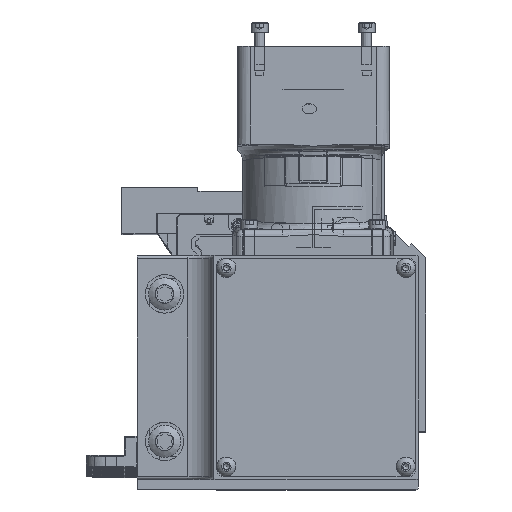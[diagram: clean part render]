
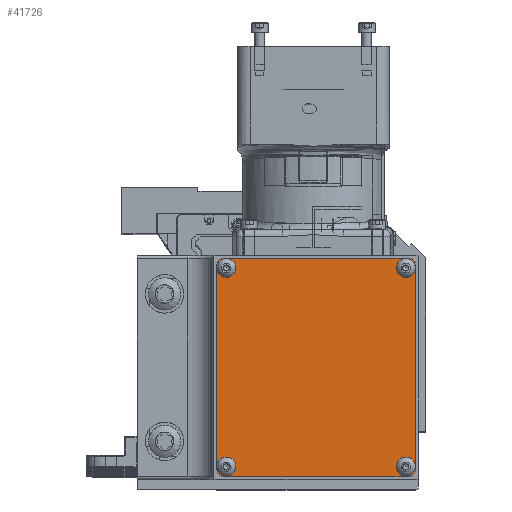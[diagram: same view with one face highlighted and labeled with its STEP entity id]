
A CAD part, top view. The second image highlights one B-rep face of the part: STEP entity #41726.
In plain terms, the highlighted planar face has unit normal (0, 0, 1).
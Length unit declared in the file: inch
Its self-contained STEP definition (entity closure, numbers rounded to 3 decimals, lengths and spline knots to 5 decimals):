
#2211 = CARTESIAN_POINT ( 'NONE',  ( -1.8825, -2., 1.8475 ) ) ;
#2311 = EDGE_LOOP ( 'NONE', ( #22959 ) ) ;
#2469 = CIRCLE ( 'NONE', #39534, 0.125 ) ;
#2878 = CARTESIAN_POINT ( 'NONE',  ( -1.8825, 2.125, 1.8475 ) ) ;
#3211 = VERTEX_POINT ( 'NONE', #36080 ) ;
#3451 = CIRCLE ( 'NONE', #54455, 0.125 ) ;
#6225 = DIRECTION ( 'NONE',  ( 0., 0., 1. ) ) ;
#8361 = CARTESIAN_POINT ( 'NONE',  ( -1.7575, -2.125, 1.8475 ) ) ;
#8621 = LINE ( 'NONE', #30392, #54476 ) ;
#8636 = ORIENTED_EDGE ( 'NONE', *, *, #68477, .T. ) ;
#8664 = PLANE ( 'NONE',  #45146 ) ;
#10411 = ORIENTED_EDGE ( 'NONE', *, *, #44718, .T. ) ;
#12001 = DIRECTION ( 'NONE',  ( 0., 0., 1. ) ) ;
#12244 = CARTESIAN_POINT ( 'NONE',  ( 1.9925, 2., 1.8475 ) ) ;
#12259 = ORIENTED_EDGE ( 'NONE', *, *, #49102, .T. ) ;
#13480 = AXIS2_PLACEMENT_3D ( 'NONE', #45119, #29848, #40359 ) ;
#13552 = ORIENTED_EDGE ( 'NONE', *, *, #45088, .T. ) ;
#14079 = VERTEX_POINT ( 'NONE', #18141 ) ;
#14821 = FACE_BOUND ( 'NONE', #47138, .T. ) ;
#16204 = LINE ( 'NONE', #48847, #18418 ) ;
#16775 = AXIS2_PLACEMENT_3D ( 'NONE', #37672, #25012, #47146 ) ;
#17810 = CARTESIAN_POINT ( 'NONE',  ( 1.9925, -2., 1.8475 ) ) ;
#18141 = CARTESIAN_POINT ( 'NONE',  ( -1.8825, 2., 1.8475 ) ) ;
#18418 = VECTOR ( 'NONE', #48126, 39.37008 ) ;
#19400 = VERTEX_POINT ( 'NONE', #8361 ) ;
#19665 = DIRECTION ( 'NONE',  ( 0., 0., 1. ) ) ;
#19727 = CARTESIAN_POINT ( 'NONE',  ( -1.695, -2.12451, 1.8475 ) ) ;
#19771 = DIRECTION ( 'NONE',  ( 0., 0., 1. ) ) ;
#20519 = EDGE_CURVE ( 'NONE', #14079, #36694, #16204, .T. ) ;
#20599 = DIRECTION ( 'NONE',  ( 0., -1., 0. ) ) ;
#21386 = ORIENTED_EDGE ( 'NONE', *, *, #65613, .T. ) ;
#21744 = EDGE_CURVE ( 'NONE', #19400, #24921, #8621, .T. ) ;
#22959 = ORIENTED_EDGE ( 'NONE', *, *, #68784, .F. ) ;
#23752 = DIRECTION ( 'NONE',  ( 0., -1., 0. ) ) ;
#24625 = FACE_OUTER_BOUND ( 'NONE', #50571, .T. ) ;
#24750 = VECTOR ( 'NONE', #32913, 39.37008 ) ;
#24921 = VERTEX_POINT ( 'NONE', #68333 ) ;
#25012 = DIRECTION ( 'NONE',  ( 0., 0., 1. ) ) ;
#25694 = FACE_BOUND ( 'NONE', #2311, .T. ) ;
#26316 = CIRCLE ( 'NONE', #30994, 0.18701 ) ;
#28552 = VECTOR ( 'NONE', #42246, 39.37008 ) ;
#29403 = CARTESIAN_POINT ( 'NONE',  ( -1.7575, -2., 1.8475 ) ) ;
#29848 = DIRECTION ( 'NONE',  ( 0., 0., 1. ) ) ;
#30392 = CARTESIAN_POINT ( 'NONE',  ( 1.9925, -2.125, 1.8475 ) ) ;
#30981 = CARTESIAN_POINT ( 'NONE',  ( 1.805, 1.75049, 1.8475 ) ) ;
#30994 = AXIS2_PLACEMENT_3D ( 'NONE', #45710, #12001, #35517 ) ;
#31241 = EDGE_LOOP ( 'NONE', ( #35887 ) ) ;
#31437 = EDGE_LOOP ( 'NONE', ( #41168 ) ) ;
#32913 = DIRECTION ( 'NONE',  ( 0., 1., 0. ) ) ;
#33274 = CARTESIAN_POINT ( 'NONE',  ( 1.9925, 2.125, 1.8475 ) ) ;
#34553 = DIRECTION ( 'NONE',  ( 0., 0., 1. ) ) ;
#34854 = AXIS2_PLACEMENT_3D ( 'NONE', #69361, #19665, #53051 ) ;
#35459 = CIRCLE ( 'NONE', #13480, 0.18701 ) ;
#35517 = DIRECTION ( 'NONE',  ( 0., -1., 0. ) ) ;
#35887 = ORIENTED_EDGE ( 'NONE', *, *, #53547, .F. ) ;
#36051 = VERTEX_POINT ( 'NONE', #52760 ) ;
#36080 = CARTESIAN_POINT ( 'NONE',  ( 1.8675, 2.125, 1.8475 ) ) ;
#36233 = CARTESIAN_POINT ( 'NONE',  ( -1.695, 1.75049, 1.8475 ) ) ;
#36467 = ORIENTED_EDGE ( 'NONE', *, *, #20519, .T. ) ;
#36694 = VERTEX_POINT ( 'NONE', #2211 ) ;
#36929 = DIRECTION ( 'NONE',  ( 0., 0., 1. ) ) ;
#37507 = CARTESIAN_POINT ( 'NONE',  ( 1.9925, 2.125, 1.8475 ) ) ;
#37672 = CARTESIAN_POINT ( 'NONE',  ( -1.7575, 2., 1.8475 ) ) ;
#39534 = AXIS2_PLACEMENT_3D ( 'NONE', #68292, #34553, #62855 ) ;
#40083 = CARTESIAN_POINT ( 'NONE',  ( 1.8675, -2., 1.8475 ) ) ;
#40359 = DIRECTION ( 'NONE',  ( 0., -1., 0. ) ) ;
#40636 = DIRECTION ( 'NONE',  ( 0., -1., 0. ) ) ;
#41168 = ORIENTED_EDGE ( 'NONE', *, *, #45451, .F. ) ;
#41268 = ORIENTED_EDGE ( 'NONE', *, *, #21744, .T. ) ;
#41678 = VERTEX_POINT ( 'NONE', #36233 ) ;
#41726 = ADVANCED_FACE ( 'NONE', ( #25694, #53642, #64496, #24625, #14821 ), #8664, .T. ) ;
#42246 = DIRECTION ( 'NONE',  ( -1., 0., 0. ) ) ;
#42930 = VERTEX_POINT ( 'NONE', #30981 ) ;
#43678 = EDGE_CURVE ( 'NONE', #24921, #55484, #3451, .T. ) ;
#44718 = EDGE_CURVE ( 'NONE', #61573, #3211, #2469, .T. ) ;
#44835 = DIRECTION ( 'NONE',  ( 0., 0., 1. ) ) ;
#44897 = EDGE_CURVE ( 'NONE', #42930, #42930, #66159, .T. ) ;
#45088 = EDGE_CURVE ( 'NONE', #36694, #19400, #58070, .T. ) ;
#45119 = CARTESIAN_POINT ( 'NONE',  ( -1.695, -1.9375, 1.8475 ) ) ;
#45146 = AXIS2_PLACEMENT_3D ( 'NONE', #2878, #36929, #20599 ) ;
#45451 = EDGE_CURVE ( 'NONE', #36051, #36051, #69717, .T. ) ;
#45670 = ORIENTED_EDGE ( 'NONE', *, *, #43678, .T. ) ;
#45710 = CARTESIAN_POINT ( 'NONE',  ( -1.695, 1.9375, 1.8475 ) ) ;
#46973 = LINE ( 'NONE', #37507, #28552 ) ;
#47138 = EDGE_LOOP ( 'NONE', ( #64265 ) ) ;
#47146 = DIRECTION ( 'NONE',  ( 0., -1., 0. ) ) ;
#48126 = DIRECTION ( 'NONE',  ( 0., -1., 0. ) ) ;
#48847 = CARTESIAN_POINT ( 'NONE',  ( -1.8825, 2.125, 1.8475 ) ) ;
#49102 = EDGE_CURVE ( 'NONE', #55484, #61573, #51025, .T. ) ;
#50571 = EDGE_LOOP ( 'NONE', ( #36467, #13552, #41268, #45670, #12259, #10411, #8636, #21386 ) ) ;
#51025 = LINE ( 'NONE', #33274, #24750 ) ;
#52760 = CARTESIAN_POINT ( 'NONE',  ( 1.805, -2.12451, 1.8475 ) ) ;
#53051 = DIRECTION ( 'NONE',  ( 0., -1., 0. ) ) ;
#53547 = EDGE_CURVE ( 'NONE', #41678, #41678, #26316, .T. ) ;
#53642 = FACE_BOUND ( 'NONE', #31437, .T. ) ;
#54455 = AXIS2_PLACEMENT_3D ( 'NONE', #40083, #44835, #23752 ) ;
#54476 = VECTOR ( 'NONE', #63753, 39.37008 ) ;
#54619 = AXIS2_PLACEMENT_3D ( 'NONE', #29403, #6225, #40636 ) ;
#55484 = VERTEX_POINT ( 'NONE', #17810 ) ;
#56972 = AXIS2_PLACEMENT_3D ( 'NONE', #64725, #19771, #69828 ) ;
#57573 = VERTEX_POINT ( 'NONE', #63676 ) ;
#58070 = CIRCLE ( 'NONE', #54619, 0.125 ) ;
#61573 = VERTEX_POINT ( 'NONE', #12244 ) ;
#62855 = DIRECTION ( 'NONE',  ( 0., -1., 0. ) ) ;
#63676 = CARTESIAN_POINT ( 'NONE',  ( -1.7575, 2.125, 1.8475 ) ) ;
#63753 = DIRECTION ( 'NONE',  ( 1., 0., 0. ) ) ;
#64265 = ORIENTED_EDGE ( 'NONE', *, *, #44897, .F. ) ;
#64496 = FACE_BOUND ( 'NONE', #31241, .T. ) ;
#64681 = VERTEX_POINT ( 'NONE', #19727 ) ;
#64725 = CARTESIAN_POINT ( 'NONE',  ( 1.805, -1.9375, 1.8475 ) ) ;
#65613 = EDGE_CURVE ( 'NONE', #57573, #14079, #68879, .T. ) ;
#66159 = CIRCLE ( 'NONE', #34854, 0.18701 ) ;
#68292 = CARTESIAN_POINT ( 'NONE',  ( 1.8675, 2., 1.8475 ) ) ;
#68333 = CARTESIAN_POINT ( 'NONE',  ( 1.8675, -2.125, 1.8475 ) ) ;
#68477 = EDGE_CURVE ( 'NONE', #3211, #57573, #46973, .T. ) ;
#68784 = EDGE_CURVE ( 'NONE', #64681, #64681, #35459, .T. ) ;
#68879 = CIRCLE ( 'NONE', #16775, 0.125 ) ;
#69361 = CARTESIAN_POINT ( 'NONE',  ( 1.805, 1.9375, 1.8475 ) ) ;
#69717 = CIRCLE ( 'NONE', #56972, 0.18701 ) ;
#69828 = DIRECTION ( 'NONE',  ( 0., -1., 0. ) ) ;
